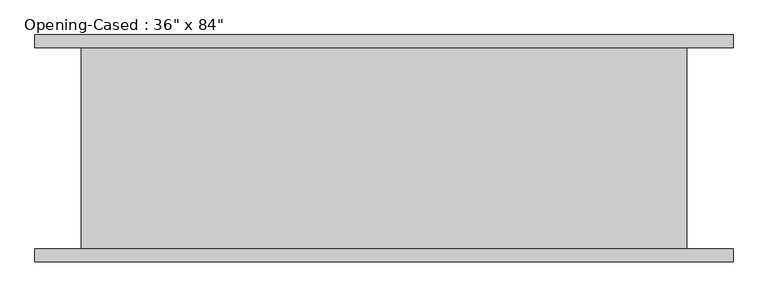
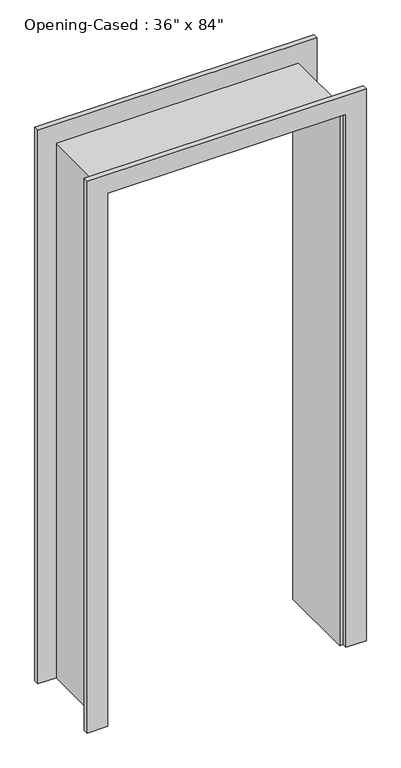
"""IFC4 building model written with IfcOpenShell, lengths in millimetres: proxy geometry."""

import ifcopenshell
import ifcopenshell.guid

model = None  # the IFC model being written
_history = None  # IfcOwnerHistory: only IFC2X3 demands one
_inside = {}  # id of a spatial element -> (the spatial element, [elements in it])
_under = {}  # id of a project, library or spatial element -> (it, [spatial elements below it])
_declared = {}  # id of a project -> (the project, [libraries it declares])
_typed = {}  # id of a type object -> (the type object, [elements of that type])
_made_of = {}  # id of a material, layer set ... -> (it, [elements and type objects made of it])


def new_model(schema):
    """Start an empty IFC model of exactly this schema.

    Asked for "IFC4X3", IfcOpenShell would pick the latest addendum, in which some entities
    have other attributes; the version numbers below select the first issue.
    IFC2X3 requires an IfcOwnerHistory on every rooted entity: one is made here for all.
    """
    global model, _history
    if schema == "IFC4X3":
        model = ifcopenshell.file(schema_version=(4, 3, 0, 0))
    else:
        model = ifcopenshell.file(schema=schema)
    _inside.clear()
    _under.clear()
    _declared.clear()
    _typed.clear()
    _made_of.clear()
    _history = None
    if model.schema == "IFC2X3":
        org = make("IfcOrganization", Name="unknown")
        user = make(
            "IfcPersonAndOrganization",
            ThePerson=make("IfcPerson", FamilyName="unknown"),
            TheOrganization=org,
        )
        app = make(
            "IfcApplication",
            ApplicationDeveloper=org,
            Version="unknown",
            ApplicationFullName="unknown",
            ApplicationIdentifier="unknown",
        )
        _history = make(
            "IfcOwnerHistory",
            OwningUser=user,
            OwningApplication=app,
            ChangeAction="ADDED",
            CreationDate=0,
        )
    return model


def make(cls, **values):
    """One entity of the class cls with the attributes given. An attribute that is None is left unset."""
    return model.create_entity(
        cls, **{name: value for name, value in values.items() if value is not None}
    )


def rooted(cls, **values):
    """An entity with a GlobalId (a new one), such as an element, a storey or a relation."""
    return make(cls, GlobalId=ifcopenshell.guid.new(), OwnerHistory=_history, **values)


def si_unit(unit_type, name, prefix=None):
    """IfcSIUnit, for example si_unit("LENGTHUNIT", "METRE", prefix="MILLI")."""
    return make("IfcSIUnit", UnitType=unit_type, Prefix=prefix, Name=name)


def assignment(units):
    """IfcUnitAssignment: the units of a project."""
    return None if units is None else make("IfcUnitAssignment", Units=units)


def point(xyz):
    """IfcCartesianPoint."""
    return None if xyz is None else make("IfcCartesianPoint", Coordinates=xyz)


def direction(xyz):
    """IfcDirection."""
    return None if xyz is None else make("IfcDirection", DirectionRatios=xyz)


def frame(location, z_axis=None, x_axis=None):
    """IfcAxis2Placement3D, a coordinate frame: its origin and axes. An axis left out is left unset."""
    return make(
        "IfcAxis2Placement3D",
        Location=point(location),
        Axis=direction(z_axis),
        RefDirection=direction(x_axis),
    )


def origin():
    """The frame at (0, 0, 0) with its axes left unset."""
    return frame((0.0, 0.0, 0.0))


def place(relative_to, where):
    """IfcLocalPlacement: puts the frame where relative to a parent placement (None: the world)."""
    return make(
        "IfcLocalPlacement", PlacementRelTo=relative_to, RelativePlacement=where
    )


def context(
    kind, dimensions, precision=None, world=None, true_north=None, identifier=None
):
    """IfcGeometricRepresentationContext, for example the 3D "Model" context."""
    return make(
        "IfcGeometricRepresentationContext",
        ContextIdentifier=identifier,
        ContextType=kind,
        CoordinateSpaceDimension=dimensions,
        Precision=precision,
        WorldCoordinateSystem=world,
        TrueNorth=true_north,
    )


def project(units=None, contexts=None):
    """IfcProject with its units and contexts."""
    return rooted(
        "IfcProject",
        Name="project",
        RepresentationContexts=contexts,
        UnitsInContext=assignment(units),
    )


def spatial(cls, under=None, at=None, **own):
    """A site, building, storey or space (cls), placed at a placement, below another one or the project."""
    s = rooted(cls, ObjectPlacement=at, **own)
    if under is not None:
        _under.setdefault(under.id(), (under, []))[1].append(s)
    return s


def polyline(points):
    """IfcPolyline through the points."""
    return make("IfcPolyline", Points=[point(p) for p in points])


def outline(outer, holes=None, kind="AREA"):
    """IfcArbitraryClosedProfileDef: a profile drawn as a closed curve; with holes, ...WithVoids."""
    if holes is None:
        return make("IfcArbitraryClosedProfileDef", ProfileType=kind, OuterCurve=outer)
    return make(
        "IfcArbitraryProfileDefWithVoids",
        ProfileType=kind,
        OuterCurve=outer,
        InnerCurves=holes,
    )


def extrude(swept, where, along, depth):
    """IfcExtrudedAreaSolid: the profile swept, set in the frame where, extruded along a direction by depth."""
    return make(
        "IfcExtrudedAreaSolid",
        SweptArea=swept,
        Position=where,
        ExtrudedDirection=direction(along),
        Depth=depth,
    )


def faces_of(points, faces, orient=None, outer=None):
    """IfcFace entities. A face is a list of loops; a loop is a list of indices into points, from 0.

    orient and outer hold one flag for each loop. By default every Orientation is true, the
    first loop of a face is its IfcFaceOuterBound and the others are IfcFaceBound.
    """
    made = []
    for i, loops in enumerate(faces):
        bounds = []
        for j, loop in enumerate(loops):
            is_outer = j == 0 if outer is None else outer[i][j]
            bounds.append(
                make(
                    "IfcFaceOuterBound" if is_outer else "IfcFaceBound",
                    Bound=make("IfcPolyLoop", Polygon=[points[k] for k in loop]),
                    Orientation=True if orient is None else orient[i][j],
                )
            )
        made.append(make("IfcFace", Bounds=bounds))
    return made


def faceted_brep(points, faces, orient=None, outer=None, voids=None):
    """IfcFacetedBrep: a solid bounded by flat faces; with voids (closed shells), ...WithVoids."""
    shared = [point(p) for p in points]
    hull = make("IfcClosedShell", CfsFaces=faces_of(shared, faces, orient, outer))
    if voids is None:
        return make("IfcFacetedBrep", Outer=hull)
    return make(
        "IfcFacetedBrepWithVoids",
        Outer=hull,
        Voids=[
            make(cls, CfsFaces=faces_of(shared, fs, o, b)) for cls, fs, o, b in voids
        ],
    )


def shape(context_of_items, identifier, shape_type, items):
    """IfcShapeRepresentation: the items that make up one representation, for example the "Body"."""
    return make(
        "IfcShapeRepresentation",
        ContextOfItems=context_of_items,
        RepresentationIdentifier=identifier,
        RepresentationType=shape_type,
        Items=items,
    )


def source(mapping_origin, context_of_items, identifier, shape_type, items):
    """IfcRepresentationMap: a shape defined once, which mapped items show again and again."""
    return make(
        "IfcRepresentationMap",
        MappingOrigin=mapping_origin,
        MappedRepresentation=shape(context_of_items, identifier, shape_type, items),
    )


def transform(
    local_origin,
    x_axis=None,
    y_axis=None,
    z_axis=None,
    scale=None,
    scale2=None,
    scale3=None,
    uniform=True,
):
    """IfcCartesianTransformationOperator3D, or its non-uniform kind. x_axis, y_axis, z_axis: its Axis1, 2, 3."""
    if uniform:
        return make(
            "IfcCartesianTransformationOperator3D",
            Axis1=direction(x_axis),
            Axis2=direction(y_axis),
            LocalOrigin=point(local_origin),
            Scale=scale,
            Axis3=direction(z_axis),
        )
    return make(
        "IfcCartesianTransformationOperator3DnonUniform",
        Axis1=direction(x_axis),
        Axis2=direction(y_axis),
        LocalOrigin=point(local_origin),
        Scale=scale,
        Axis3=direction(z_axis),
        Scale2=scale2,
        Scale3=scale3,
    )


def mapped(mapping_source, mapping_target):
    """IfcMappedItem: shows the shape of a source again, moved by a transform."""
    return make(
        "IfcMappedItem", MappingSource=mapping_source, MappingTarget=mapping_target
    )


def made_of(thing, what):
    """Note that an element or type object is made of a material, layer set ...; save() writes the relation."""
    if what is not None:
        _made_of.setdefault(what.id(), (what, []))[1].append(thing)
    return thing


def element(
    cls,
    number,
    at=None,
    inside=None,
    cuts=None,
    type_object=None,
    material=None,
    context=None,
    identifier="Body",
    shape_type=None,
    held_by="IfcProductDefinitionShape",
    body=None,
    shapes=None,
    **own,
):
    """One element of the class cls, such as IfcWall. Its Tag is "e" and its number.

    at: its placement. inside: the storey or other place that contains it. cuts: it is an
    opening in that element (IfcRelVoidsElement). A single representation is given by context,
    identifier, shape_type and body (its items); several are given by shapes. held_by: the class
    of the entity that holds the representations. save() writes the other relations.
    """
    e = rooted(cls, Tag="e%d" % number, ObjectPlacement=at, **own)
    if body is not None:
        shapes = [shape(context, identifier, shape_type, body)]
    if shapes is not None:
        e.Representation = make(held_by, Representations=shapes)
    if inside is not None:
        _inside.setdefault(inside.id(), (inside, []))[1].append(e)
    if cuts is not None:
        rooted(
            "IfcRelVoidsElement", RelatingBuildingElement=cuts, RelatedOpeningElement=e
        )
    if type_object is not None:
        _typed.setdefault(type_object.id(), (type_object, []))[1].append(e)
    return made_of(e, material)


def aggregate(whole, parts):
    """IfcRelAggregates: a whole, such as a stair, and the parts it consists of."""
    return rooted("IfcRelAggregates", RelatingObject=whole, RelatedObjects=parts)


def save(model, path):
    """Write the relations noted so far, then the file.

    IfcRelAggregates (storeys below a building ...), IfcRelContainedInSpatialStructure (elements
    in a storey), IfcRelDefinesByType, IfcRelAssociatesMaterial and IfcRelDeclares: one each for
    every whole, place, type object, material and project.
    """
    for whole, parts in _under.values():
        aggregate(whole, parts)
    for where, things in _inside.values():
        rooted(
            "IfcRelContainedInSpatialStructure",
            RelatedElements=things,
            RelatingStructure=where,
        )
    for kind, things in _typed.values():
        rooted("IfcRelDefinesByType", RelatedObjects=things, RelatingType=kind)
    for what, things in _made_of.values():
        rooted("IfcRelAssociatesMaterial", RelatedObjects=things, RelatingMaterial=what)
    for by, libraries in _declared.values():
        rooted("IfcRelDeclares", RelatingContext=by, RelatedDefinitions=libraries)
    model.write(path)


def proxy_6a329109(model_context):
    return source(origin(), model_context, "Body", "SolidModel", [
        extrude(outline(polyline([(0.0, -459.0386567), (2127.25, -459.0386567), (2127.25, 442.6613433), (0.0, 442.6613433), (0.0, 518.8613433), (2203.45, 518.8613433), (2203.45, -535.2386567), (0.0, -535.2386567), (0.0, -459.0386567)])), frame((0.0, -171.45, 0.0), z_axis=(0.0, 1.0, 0.0), x_axis=(0.0, 0.0, 1.0)), (0.0, 0.0, 1.0), 19.05),
        extrude(outline(polyline([(0.0, 518.8613433), (2209.8, 518.8613433), (2209.8, -535.2386567), (0.0, -535.2386567), (0.0, -459.0386567), (2127.25, -459.0386567), (2127.25, 442.6613433), (0.0, 442.6613433), (0.0, 518.8613433)])), frame((0.0, 152.4, 0.0), z_axis=(0.0, 1.0, 0.0), x_axis=(0.0, 0.0, 1.0)), (0.0, 0.0, 1.0), 19.05),
        faceted_brep([(429.9613433, 152.4, 0.0), (449.0113433, 152.4, 0.0), (449.0113433, -152.4, 0.0), (429.9613433, -152.4, 0.0), (429.9613433, 152.4, 2114.55), (449.0113433, 152.4, 2133.6), (449.0113433, -152.4, 2133.6), (429.9613433, -152.4, 2114.55), (-446.3386567, 152.4, 2114.55), (-465.3886567, 152.4, 2133.6), (-465.3886567, -152.4, 2133.6), (-446.3386567, -152.4, 2114.55), (-446.3386567, 152.4, 0.0), (-446.3386567, -152.4, 0.0), (-465.3886567, -152.4, 0.0), (-465.3886567, 152.4, 0.0)], [[[0, 1, 2, 3]], [[1, 0, 4, 5]], [[2, 1, 5, 6]], [[3, 2, 6, 7]], [[0, 3, 7, 4]], [[5, 4, 8, 9]], [[6, 5, 9, 10]], [[7, 6, 10, 11]], [[4, 7, 11, 8]], [[12, 13, 14, 15]], [[9, 8, 12, 15]], [[10, 9, 15, 14]], [[11, 10, 14, 13]], [[8, 11, 13, 12]]]),
    ])


if __name__ == "__main__":
    model = new_model("IFC4")
    model_context = context("Model", 3, world=origin())
    ifc_project = project(units=[si_unit("LENGTHUNIT", "METRE", prefix="MILLI")], contexts=[model_context])
    site = spatial("IfcSite", under=ifc_project)
    building = spatial("IfcBuilding", under=site)
    placement = place(None, origin())
    proxy_shape = proxy_6a329109(model_context)
    element("IfcBuildingElementProxy", 1, Name="Opening-Cased : 36\" x 84\"", ObjectType="Opening-Cased : 36\" x 84\"", at=placement, inside=building, context=model_context, shape_type="MappedRepresentation", body=[
        mapped(proxy_shape, transform((0.0, 0.0, 0.0), x_axis=(1.0, 0.0, 0.0), y_axis=(0.0, 1.0, 0.0), z_axis=(0.0, 0.0, 1.0))),
    ])
    save(model, "model.ifc")
